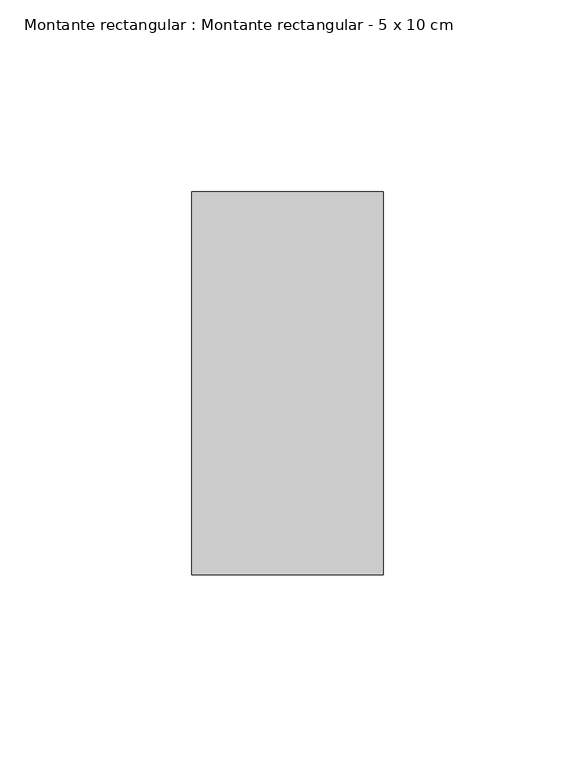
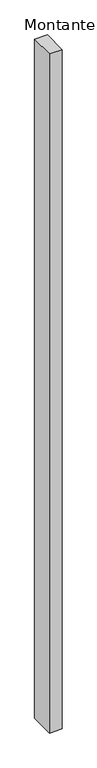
"""IFC4 building model written with IfcOpenShell, lengths in millimetres: member geometry, Montante rectangular : Montante rectangular - 5 x 10 cm."""

from ifc_helpers import new_model, si_unit, frame, origin, place, context, project, spatial, polyline, outline, extrude, source, transform, mapped, element, save


def montante_rectangular_montante_rectangular_5_x_10_cm_4366589c(model_context):
    return source(origin(), model_context, "Body", "SweptSolid", [
        extrude(outline(polyline([(-50.0, 50.0), (0.0, 50.0), (0.0, -50.0), (-50.0, -50.0), (-50.0, 50.0)])), frame((0.0, 0.0, -2820.0), z_axis=(0.0, 0.0, 1.0), x_axis=(1.0, 0.0, 0.0)), (0.0, 0.0, 1.0), 2820.0),
    ])


if __name__ == "__main__":
    model = new_model("IFC4")
    model_context = context("Model", 3, world=origin())
    ifc_project = project(units=[si_unit("LENGTHUNIT", "METRE", prefix="MILLI")], contexts=[model_context])
    site = spatial("IfcSite", under=ifc_project)
    building = spatial("IfcBuilding", under=site)
    placement = place(None, origin())
    montante_rectangular_montante_rectangular_5_x_10_cm_shape = montante_rectangular_montante_rectangular_5_x_10_cm_4366589c(model_context)
    element("IfcMember", 1, ObjectType="Montante rectangular : Montante rectangular - 5 x 10 cm", at=placement, inside=building, context=model_context, shape_type="MappedRepresentation", body=[
        mapped(montante_rectangular_montante_rectangular_5_x_10_cm_shape, transform((0.0, 0.0, 0.0), x_axis=(1.0, 0.0, 0.0), y_axis=(0.0, 1.0, 0.0), z_axis=(0.0, 0.0, 1.0))),
    ])
    save(model, "model.ifc")
